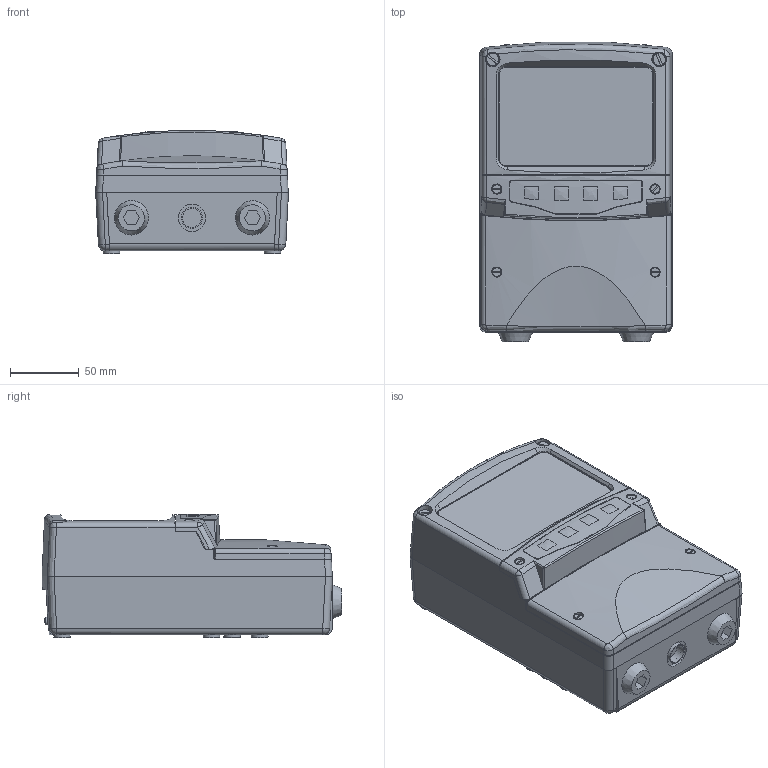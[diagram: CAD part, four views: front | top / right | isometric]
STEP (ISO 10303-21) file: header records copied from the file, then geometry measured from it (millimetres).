
FILE_DESCRIPTION (( 'STEP AP214' ), '1' );
FILE_NAME ('484D Large Field Enclosure Assembly.STEP', '2021-01-05T17:06:30', ( '' ), ( '' ), 'SwSTEP 2.0', 'SolidWorks 2020', '' );
FILE_SCHEMA (( 'AUTOMOTIVE_DESIGN' ));
Length unit declared in the file: millimetre
Products named in the file (16): slotted cheese head screw_bsi_BS EN ISO 1207 - M6 x 50 - 38N; Glass Window; Keypad Surface; Thermal Label; plain washer form a_bsi_Bright washer BS 4320 - M6 (Form A); Certification Label; Enclosure Rear; Enclosure Front; Terminal Cover; slotted cheese head screw_bsi_BS EN ISO 1207 - M4 x 20 - 20N; M20_snap_fit_plug; Keypad; single coil rectangular section spring washer_bsi_Rectangular section spring washer BS 4464 - 4 (Type B); pan head cross recess screw_bsi_BS EN ISO 7045 - M3 x 6 - Z - 6N; 484D Large Field Enclosure Assembly; M20_plug
Assembly tree (29 placements, depth 2):
  484D Large Field Enclosure Assembly
    Enclosure Rear
    Enclosure Front
    Glass Window
    Certification Label
    pan head cross recess screw_bsi_BS EN ISO 7045 - M3 x 6 - Z - 6N  x2
    slotted cheese head screw_bsi_BS EN ISO 1207 - M6 x 50 - 38N  x4
    plain washer form a_bsi_Bright washer BS 4320 - M6 (Form A)  x4
    Terminal Cover
    Keypad
    Keypad Surface
    slotted cheese head screw_bsi_BS EN ISO 1207 - M4 x 20 - 20N  x4
    single coil rectangular section spring washer_bsi_Rectangular section spring washer BS 4464 - 4 (Type B)  x4
    M20_plug  x2
    M20_snap_fit_plug
    Thermal Label
Bounding box: 140.06 x 218.02 x 90.09 mm (x, y, z)
Volume: 1940961.1 mm3; surface area: 259017.8 mm2
Topology: 29 solids, 29 shells, 726 faces, 1659 edges, 1061 vertices
Faces by surface type: plane 363, cylinder 132, cone 86, bspline 76, torus 59, sphere 10
Full cylindrical faces by diameter (mm): 2.6 x2, 3 x2, 3.2 x2, 3.4 x4, 4 x8, 4.32 x4, 5.6 x2, 6 x8, 6.4 x4, 7.32 x2, 9 x2, 12.5 x4, 13.75 x1, 15.4 x2, 20 x5, 21.2 x1, 22.5 x1
Entity records: 21232 total; most frequent: CARTESIAN_POINT 8511, ORIENTED_EDGE 2426, DIRECTION 2318, EDGE_CURVE 1213, AXIS2_PLACEMENT_3D 892, VERTEX_POINT 819, EDGE_LOOP 748, FACE_OUTER_BOUND 622
